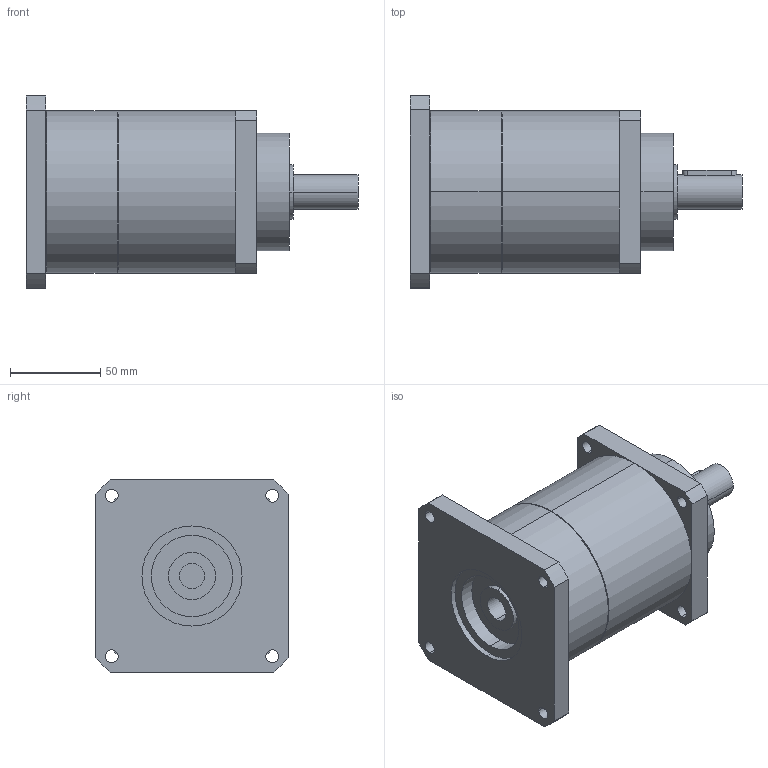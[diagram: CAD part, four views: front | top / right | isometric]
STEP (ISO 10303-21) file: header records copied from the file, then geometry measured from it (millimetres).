
FILE_DESCRIPTION(('CoCreate Modeling STEP Export'),'2;1');
FILE_NAME('GPT90_ig-9-12-16-20-25-28-35-40-50-70-100_19_B5T_14_P02.stp','2015-02-04T11:29:08',(''),(''),'CoCreate Modeling STEP processor for AP214 (Solid Model)','CoCreate Modeling 16.00C 25-Feb-2009 (C) Parametric Technology GmbH','');
FILE_SCHEMA(('AUTOMOTIVE_DESIGN { 1 0 10303 214 1 1 1 1 }'));
Length unit declared in the file: millimetre
Products named in the file (2): GPT90_ig-9-12-16-20-25-28-35-40-50-70-100_19_B5T_14_P02
Assembly tree (1 placements, depth 2):
  GPT90_ig-9-12-16-20-25-28-35-40-50-70-100_19_B5T_14_P02
    GPT90_ig-9-12-16-20-25-28-35-40-50-70-100_19_B5T_14_P02
Bounding box: 184 x 106.5 x 106.5 mm (x, y, z)
Volume: 931986.7 mm3; surface area: 75914.3 mm2
Topology: 1 solids, 1 shells, 77 faces, 206 edges, 141 vertices
Faces by surface type: cylinder 46, plane 27, cone 4
Entity records: 2596 total; most frequent: CARTESIAN_POINT 742, ORIENTED_EDGE 412, DIRECTION 324, EDGE_CURVE 206, VERTEX_POINT 141, AXIS2_PLACEMENT_3D 120, EDGE_LOOP 103, VECTOR 84
